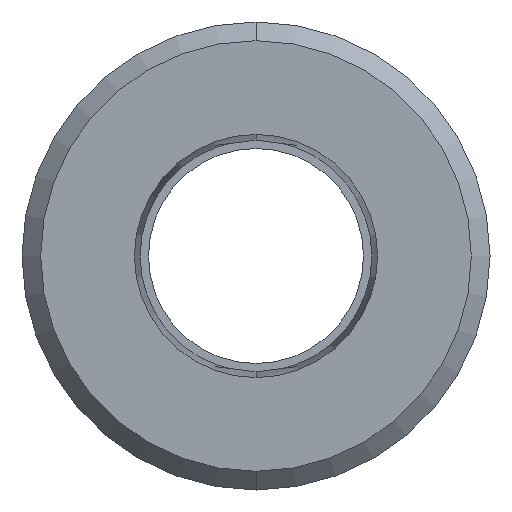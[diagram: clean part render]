
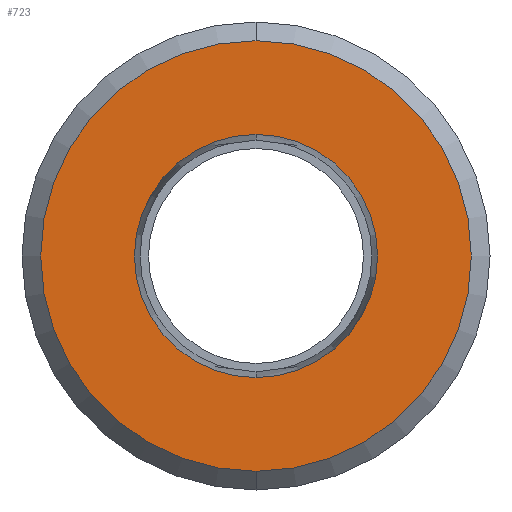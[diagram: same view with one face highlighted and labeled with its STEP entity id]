
A CAD part, front view. The second image highlights one B-rep face of the part: STEP entity #723.
In plain terms, the highlighted planar face has unit normal (0, -1, 0).
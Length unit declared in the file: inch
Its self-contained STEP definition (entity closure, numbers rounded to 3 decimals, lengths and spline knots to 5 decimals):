
#14 = DIRECTION ( 'NONE',  ( 0., 1., 0. ) ) ;
#19 = DIRECTION ( 'NONE',  ( 0., -1., 0. ) ) ;
#32 = CIRCLE ( 'NONE', #359, 0.69 ) ;
#53 = DIRECTION ( 'NONE',  ( 0., 0., 1. ) ) ;
#128 = CARTESIAN_POINT ( 'NONE',  ( 0., 0., 0.69 ) ) ;
#222 = DIRECTION ( 'NONE',  ( 0., -1., 0. ) ) ;
#243 = VERTEX_POINT ( 'NONE', #568 ) ;
#252 = VERTEX_POINT ( 'NONE', #634 ) ;
#276 = ORIENTED_EDGE ( 'NONE', *, *, #851, .F. ) ;
#277 = AXIS2_PLACEMENT_3D ( 'NONE', #649, #222, #722 ) ;
#280 = CIRCLE ( 'NONE', #277, 0.38961 ) ;
#290 = AXIS2_PLACEMENT_3D ( 'NONE', #415, #19, #492 ) ;
#321 = CARTESIAN_POINT ( 'NONE',  ( 0., 0., 0. ) ) ;
#327 = CIRCLE ( 'NONE', #290, 0.69 ) ;
#342 = AXIS2_PLACEMENT_3D ( 'NONE', #321, #821, #392 ) ;
#359 = AXIS2_PLACEMENT_3D ( 'NONE', #899, #453, #53 ) ;
#392 = DIRECTION ( 'NONE',  ( 0., 0., -1. ) ) ;
#415 = CARTESIAN_POINT ( 'NONE',  ( 0., 0., 0. ) ) ;
#453 = DIRECTION ( 'NONE',  ( 0., -1., 0. ) ) ;
#471 = DIRECTION ( 'NONE',  ( 0., 0., 1. ) ) ;
#472 = AXIS2_PLACEMENT_3D ( 'NONE', #546, #14, #471 ) ;
#476 = PLANE ( 'NONE',  #472 ) ;
#492 = DIRECTION ( 'NONE',  ( 0., 0., 1. ) ) ;
#544 = ORIENTED_EDGE ( 'NONE', *, *, #888, .T. ) ;
#546 = CARTESIAN_POINT ( 'NONE',  ( 0., 0., 0. ) ) ;
#568 = CARTESIAN_POINT ( 'NONE',  ( 0., 0., -0.38961 ) ) ;
#596 = VERTEX_POINT ( 'NONE', #679 ) ;
#600 = ORIENTED_EDGE ( 'NONE', *, *, #896, .F. ) ;
#634 = CARTESIAN_POINT ( 'NONE',  ( 0., 0., -0.69 ) ) ;
#637 = EDGE_LOOP ( 'NONE', ( #544, #695 ) ) ;
#649 = CARTESIAN_POINT ( 'NONE',  ( 0., 0., 0. ) ) ;
#655 = VERTEX_POINT ( 'NONE', #128 ) ;
#679 = CARTESIAN_POINT ( 'NONE',  ( 0., 0., 0.38961 ) ) ;
#690 = FACE_OUTER_BOUND ( 'NONE', #637, .T. ) ;
#695 = ORIENTED_EDGE ( 'NONE', *, *, #825, .T. ) ;
#697 = CIRCLE ( 'NONE', #342, 0.38961 ) ;
#722 = DIRECTION ( 'NONE',  ( 0., 0., -1. ) ) ;
#723 = ADVANCED_FACE ( 'NONE', ( #690, #823 ), #476, .F. ) ;
#725 = EDGE_LOOP ( 'NONE', ( #600, #276 ) ) ;
#821 = DIRECTION ( 'NONE',  ( 0., -1., 0. ) ) ;
#823 = FACE_BOUND ( 'NONE', #725, .T. ) ;
#825 = EDGE_CURVE ( 'NONE', #252, #655, #32, .T. ) ;
#851 = EDGE_CURVE ( 'NONE', #596, #243, #697, .T. ) ;
#888 = EDGE_CURVE ( 'NONE', #655, #252, #327, .T. ) ;
#896 = EDGE_CURVE ( 'NONE', #243, #596, #280, .T. ) ;
#899 = CARTESIAN_POINT ( 'NONE',  ( 0., 0., 0. ) ) ;
